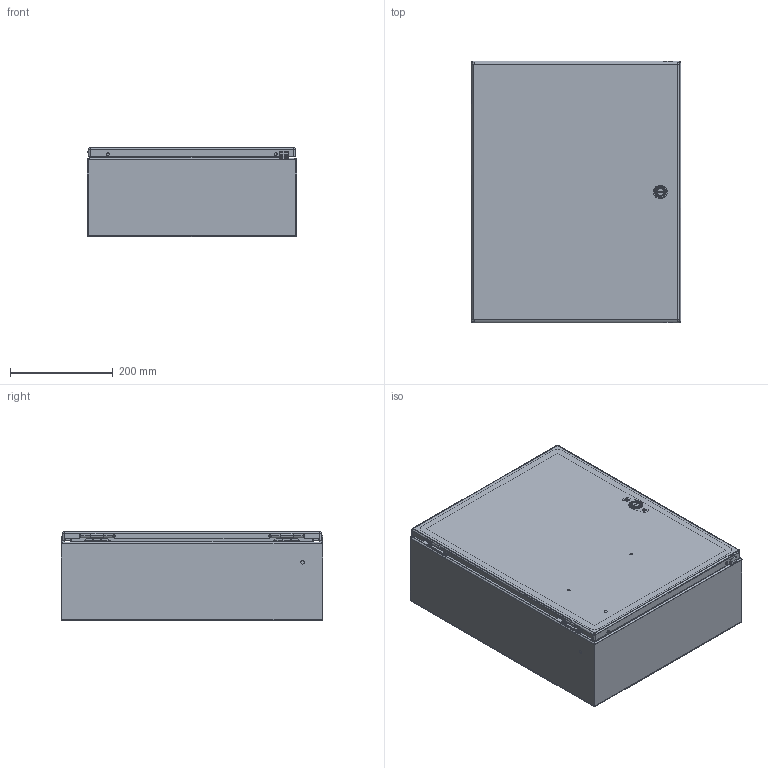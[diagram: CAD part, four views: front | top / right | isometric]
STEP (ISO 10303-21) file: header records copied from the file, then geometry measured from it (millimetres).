
FILE_DESCRIPTION (( 'STEP AP203' ), '1' );
FILE_NAME ('csd20166lg.STEP', '2012-05-10T16:39:58', ( 'User' ), ( 'Pentair Inc' ), 'SwSTEP 2.0', 'SolidWorks 2010', '' );
FILE_SCHEMA (( 'CONFIG_CONTROL_DESIGN' ));
Length unit declared in the file: inch
Products named in the file (27): 87541995; 64202001; 64210001; 64203001; 87927840_87927840; 87932903; 64138001; 89057561; 87543027; 87929507; 87929767; 87929769_Installed on Pin; 89076399; 89076193; 89056623; csd20166lg; 87934510; 87934313_default; 23271001_After Weld; 87937923_assy; 87937963_weldment; 87937909; 99401225; 87931362_87931362; 64101001; 64201001; 87541994_Installed Height
Assembly tree (38 placements, depth 4):
  csd20166lg
    87929507  x2
      87929767
      87929769_Installed on Pin
    89076399  x2
      89076193
      89056623
    87543027  x2
    87934510
      99401225
      23271001_After Weld  x4
      87934313_default
    87937923_assy
      87932903  x2
      87937963_weldment
        87931362_87931362  x4
        99401225
        87937909
      64101001
        64201001
        87541994_Installed Height
        64210001
        64203001
        87541995
        87927840_87927840
        64202001
      64138001  x2
      89057561
Bounding box: 406.4 x 508.73 x 173.1 mm (x, y, z)
Volume: 1098427.9 mm3; surface area: 1640344 mm2
Topology: 35 solids, 35 shells, 1689 faces, 4125 edges, 2490 vertices
Faces by surface type: plane 652, cylinder 547, bspline 288, torus 106, cone 88, sphere 8
Entity records: 46223 total; most frequent: CARTESIAN_POINT 16302, ORIENTED_EDGE 5874, DIRECTION 5117, EDGE_CURVE 2937, AXIS2_PLACEMENT_3D 1833, VERTEX_POINT 1802, LINE 1451, VECTOR 1451
